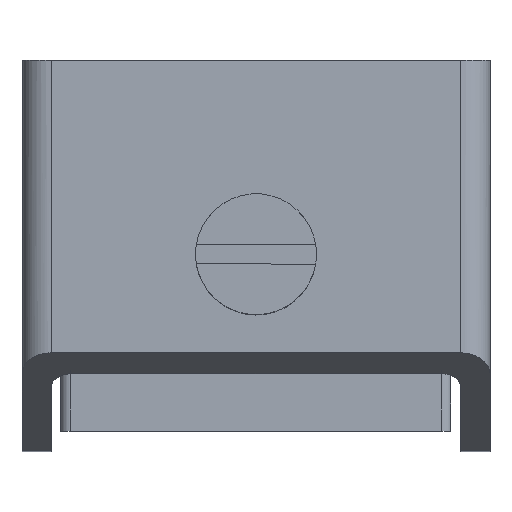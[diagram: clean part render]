
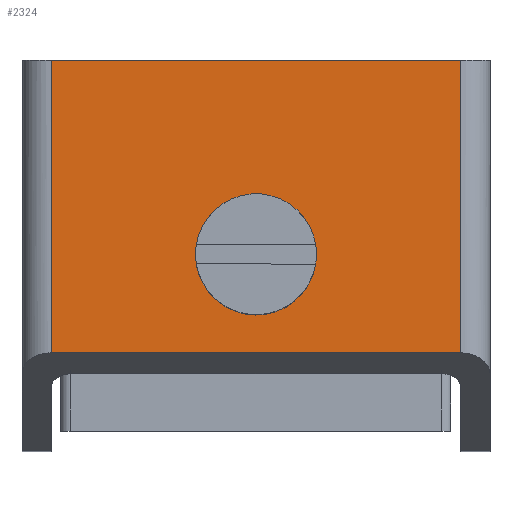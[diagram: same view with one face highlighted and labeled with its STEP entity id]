
A CAD part, top view. The second image highlights one B-rep face of the part: STEP entity #2324.
In plain terms, the highlighted planar face has unit normal (0, 0, 1).
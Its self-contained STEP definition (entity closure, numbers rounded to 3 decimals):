
#24=CARTESIAN_POINT('',(-10.5,-5.,18.));
#26=DIRECTION('',(1.,0.,0.));
#27=VECTOR('',#26,21.);
#28=CARTESIAN_POINT('',(-10.5,-5.,18.));
#29=LINE('',#28,#27);
#391=DIRECTION('',(0.,1.,0.));
#392=VECTOR('',#391,15.);
#393=CARTESIAN_POINT('',(10.5,-5.,18.));
#394=LINE('',#393,#392);
#399=DIRECTION('',(1.,0.,0.));
#400=VECTOR('',#399,21.);
#401=CARTESIAN_POINT('',(-10.5,10.,18.));
#402=LINE('',#401,#400);
#403=CARTESIAN_POINT('',(0.,0.,18.));
#404=DIRECTION('',(0.,0.,1.));
#405=DIRECTION('',(0.,-1.,0.));
#406=AXIS2_PLACEMENT_3D('',#403,#404,#405);
#408=CARTESIAN_POINT('',(0.,0.,18.));
#409=DIRECTION('',(0.,0.,1.));
#410=DIRECTION('',(0.031,1.,0.));
#411=AXIS2_PLACEMENT_3D('',#408,#409,#410);
#413=CARTESIAN_POINT('',(0.,0.,18.));
#414=DIRECTION('',(0.,0.,1.));
#415=DIRECTION('',(0.,1.,0.));
#416=AXIS2_PLACEMENT_3D('',#413,#414,#415);
#418=CARTESIAN_POINT('',(0.,0.,18.));
#419=DIRECTION('',(0.,0.,1.));
#420=DIRECTION('',(-0.031,-1.,0.));
#421=AXIS2_PLACEMENT_3D('',#418,#419,#420);
#427=DIRECTION('',(0.,-1.,0.));
#428=VECTOR('',#427,15.);
#429=CARTESIAN_POINT('',(-10.5,10.,18.));
#430=LINE('',#429,#428);
#1613=VERTEX_POINT('',#24);
#1614=CARTESIAN_POINT('',(10.5,-5.,18.));
#1615=VERTEX_POINT('',#1614);
#1746=CARTESIAN_POINT('',(10.5,10.,18.));
#1747=VERTEX_POINT('',#1746);
#1748=CARTESIAN_POINT('',(-10.5,10.,18.));
#1749=VERTEX_POINT('',#1748);
#1750=CARTESIAN_POINT('',(0.,-2.8,18.));
#1751=CARTESIAN_POINT('',(0.086,2.799,18.));
#1752=VERTEX_POINT('',#1750);
#1753=VERTEX_POINT('',#1751);
#1754=CARTESIAN_POINT('',(0.,2.8,18.));
#1755=VERTEX_POINT('',#1754);
#1756=CARTESIAN_POINT('',(-0.086,-2.799,18.));
#1757=VERTEX_POINT('',#1756);
#2301=CARTESIAN_POINT('',(-10.5,-10.,18.));
#2302=DIRECTION('',(0.,0.,1.));
#2303=DIRECTION('',(1.,0.,0.));
#2304=AXIS2_PLACEMENT_3D('',#2301,#2302,#2303);
#2305=PLANE('',#2304);
#2306=ORIENTED_EDGE('',*,*,#1866,.F.);
#2308=ORIENTED_EDGE('',*,*,#2307,.F.);
#2310=ORIENTED_EDGE('',*,*,#2309,.T.);
#2311=ORIENTED_EDGE('',*,*,#2293,.F.);
#2312=EDGE_LOOP('',(#2306,#2308,#2310,#2311));
#2313=FACE_OUTER_BOUND('',#2312,.F.);
#2315=ORIENTED_EDGE('',*,*,#2314,.T.);
#2317=ORIENTED_EDGE('',*,*,#2316,.T.);
#2319=ORIENTED_EDGE('',*,*,#2318,.T.);
#2321=ORIENTED_EDGE('',*,*,#2320,.T.);
#2322=EDGE_LOOP('',(#2315,#2317,#2319,#2321));
#2323=FACE_BOUND('',#2322,.F.);
#2324=ADVANCED_FACE('',(#2313,#2323),#2305,.T.);
#407=CIRCLE('',#406,2.8);
#412=CIRCLE('',#411,2.8);
#417=CIRCLE('',#416,2.8);
#422=CIRCLE('',#421,2.8);
#1866=EDGE_CURVE('',#1613,#1615,#29,.T.);
#2293=EDGE_CURVE('',#1615,#1747,#394,.T.);
#2307=EDGE_CURVE('',#1749,#1613,#430,.T.);
#2309=EDGE_CURVE('',#1749,#1747,#402,.T.);
#2314=EDGE_CURVE('',#1752,#1753,#407,.T.);
#2316=EDGE_CURVE('',#1753,#1755,#412,.T.);
#2318=EDGE_CURVE('',#1755,#1757,#417,.T.);
#2320=EDGE_CURVE('',#1757,#1752,#422,.T.);
